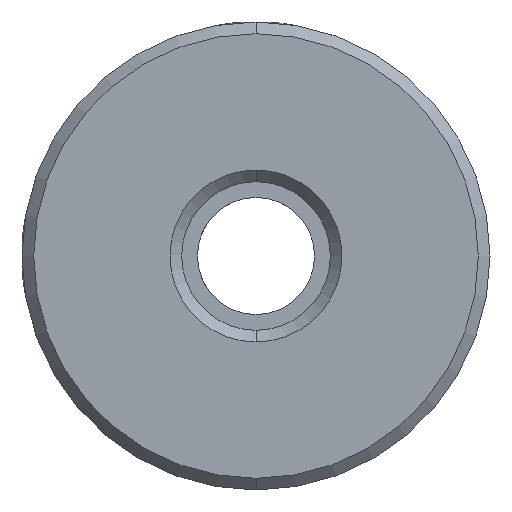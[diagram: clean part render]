
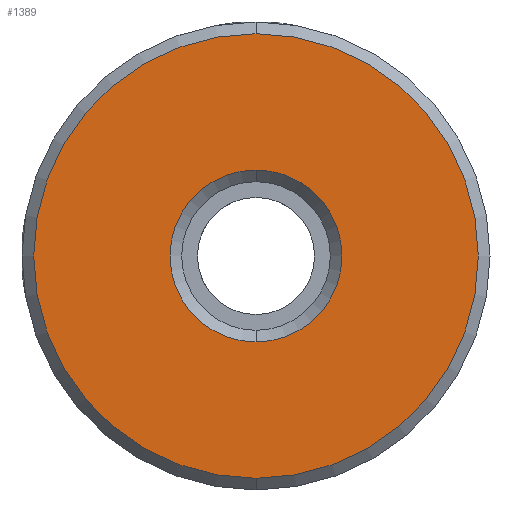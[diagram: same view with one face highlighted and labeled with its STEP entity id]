
A CAD part, front view. The second image highlights one B-rep face of the part: STEP entity #1389.
In plain terms, the highlighted planar face has unit normal (0, -1, 0).
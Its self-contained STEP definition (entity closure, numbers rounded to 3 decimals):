
#76 = FACE_BOUND ( 'NONE', #3348, .T. ) ;
#113 = DIRECTION ( 'NONE',  ( 0., 1., 0. ) ) ;
#184 = DIRECTION ( 'NONE',  ( 0., -1., 0. ) ) ;
#350 = DIRECTION ( 'NONE',  ( 0., 1., 0. ) ) ;
#417 = EDGE_LOOP ( 'NONE', ( #2973, #3489 ) ) ;
#435 = CIRCLE ( 'NONE', #2184, 3.675 ) ;
#586 = CIRCLE ( 'NONE', #3652, 3.675 ) ;
#679 = CARTESIAN_POINT ( 'NONE',  ( -10.188, -0.277, 0.046 ) ) ;
#714 = CARTESIAN_POINT ( 'NONE',  ( -10.188, -0.277, 0.046 ) ) ;
#749 = DIRECTION ( 'NONE',  ( 0., 0., 1. ) ) ;
#773 = ORIENTED_EDGE ( 'NONE', *, *, #774, .T. ) ;
#774 = EDGE_CURVE ( 'NONE', #1862, #1982, #435, .T. ) ;
#870 = DIRECTION ( 'NONE',  ( 0., 0., 1. ) ) ;
#890 = CARTESIAN_POINT ( 'NONE',  ( -10.188, -0.277, 3.721 ) ) ;
#1262 = EDGE_CURVE ( 'NONE', #2082, #2183, #1549, .T. ) ;
#1389 = ADVANCED_FACE ( 'NONE', ( #3174, #76 ), #2856, .F. ) ;
#1476 = CARTESIAN_POINT ( 'NONE',  ( -10.188, -0.277, -3.629 ) ) ;
#1490 = AXIS2_PLACEMENT_3D ( 'NONE', #714, #3582, #749 ) ;
#1493 = ORIENTED_EDGE ( 'NONE', *, *, #2631, .T. ) ;
#1540 = CARTESIAN_POINT ( 'NONE',  ( -10.188, -0.277, 0.046 ) ) ;
#1549 = CIRCLE ( 'NONE', #1490, 9.5 ) ;
#1701 = CARTESIAN_POINT ( 'NONE',  ( -10.188, -0.277, 9.546 ) ) ;
#1786 = DIRECTION ( 'NONE',  ( 0., 0., 1. ) ) ;
#1862 = VERTEX_POINT ( 'NONE', #890 ) ;
#1982 = VERTEX_POINT ( 'NONE', #1476 ) ;
#2036 = DIRECTION ( 'NONE',  ( 0., 1., 0. ) ) ;
#2056 = CIRCLE ( 'NONE', #3124, 9.5 ) ;
#2082 = VERTEX_POINT ( 'NONE', #2114 ) ;
#2114 = CARTESIAN_POINT ( 'NONE',  ( -10.188, -0.277, -9.454 ) ) ;
#2183 = VERTEX_POINT ( 'NONE', #1701 ) ;
#2184 = AXIS2_PLACEMENT_3D ( 'NONE', #2963, #113, #3242 ) ;
#2612 = CARTESIAN_POINT ( 'NONE',  ( -10.188, -0.277, 0.046 ) ) ;
#2631 = EDGE_CURVE ( 'NONE', #1982, #1862, #586, .T. ) ;
#2707 = EDGE_CURVE ( 'NONE', #2183, #2082, #2056, .T. ) ;
#2836 = AXIS2_PLACEMENT_3D ( 'NONE', #679, #350, #1786 ) ;
#2856 = PLANE ( 'NONE',  #2836 ) ;
#2963 = CARTESIAN_POINT ( 'NONE',  ( -10.188, -0.277, 0.046 ) ) ;
#2973 = ORIENTED_EDGE ( 'NONE', *, *, #2707, .T. ) ;
#3124 = AXIS2_PLACEMENT_3D ( 'NONE', #1540, #184, #3483 ) ;
#3174 = FACE_OUTER_BOUND ( 'NONE', #417, .T. ) ;
#3242 = DIRECTION ( 'NONE',  ( 0., 0., 1. ) ) ;
#3348 = EDGE_LOOP ( 'NONE', ( #1493, #773 ) ) ;
#3483 = DIRECTION ( 'NONE',  ( 0., 0., 1. ) ) ;
#3489 = ORIENTED_EDGE ( 'NONE', *, *, #1262, .T. ) ;
#3582 = DIRECTION ( 'NONE',  ( 0., -1., 0. ) ) ;
#3652 = AXIS2_PLACEMENT_3D ( 'NONE', #2612, #2036, #870 ) ;
